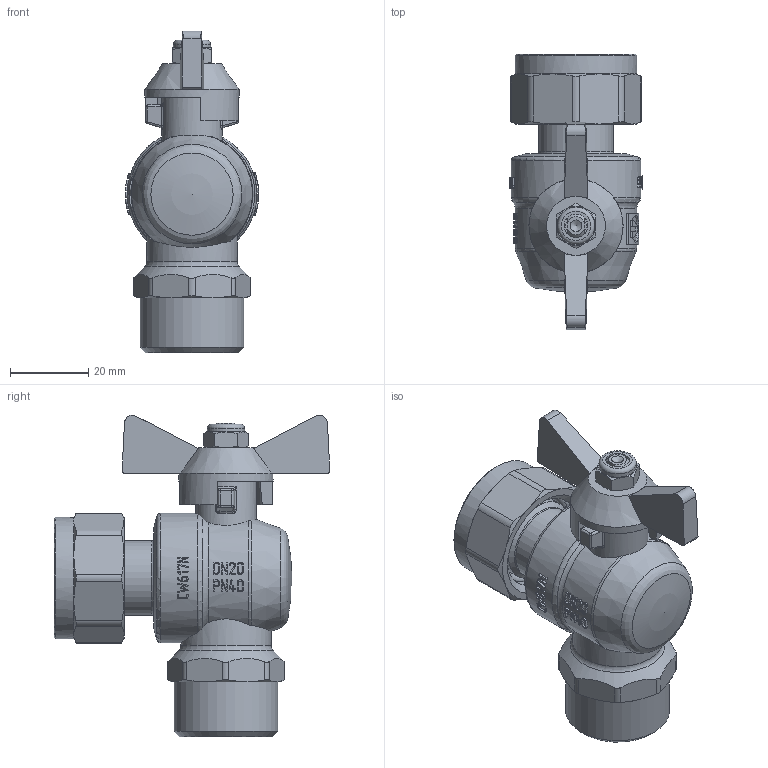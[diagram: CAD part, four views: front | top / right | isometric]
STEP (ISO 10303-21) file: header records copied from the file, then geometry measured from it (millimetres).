
FILE_DESCRIPTION(('STEP AP203'), '1');
FILE_NAME('VT.267.N.0505', '', ('UNSPECIFIED'), ('UNSPECIFIED'), 'C3D Converter', 'C3D Toolkit', '');
FILE_SCHEMA(('CONFIG_CONTROL_DESIGN'));
Length unit declared in the file: millimetre
Products named in the file (1): ВР.491816.034.000 СБ
Bounding box: 34 x 70.26 x 81.98 mm (x, y, z)
Volume: 58089.4 mm3; surface area: 16650 mm2
Topology: 2 solids, 2 shells, 781 faces, 2098 edges, 1354 vertices
Faces by surface type: plane 298, extrusion 294, cylinder 90, cone 55, torus 20, bspline 19, sphere 5
Full cylindrical faces by diameter (mm): 6 x1, 8 x1, 8.3 x1, 9.5 x1, 10.5 x1, 12 x1, 15.5 x1, 19 x1, 21.4 x1, 23 x1, 24 x1, 24.118 x1, 24.3 x1, 26.441 x1, 26.7 x1, 31 x1, 33 x1
Entity records: 35443 total; most frequent: CARTESIAN_POINT 18124, ORIENTED_EDGE 4052, DIRECTION 2586, EDGE_CURVE 2026, VERTEX_POINT 1344, B_SPLINE_CURVE_WITH_KNOTS 1093, VECTOR 1066, EDGE_LOOP 868
